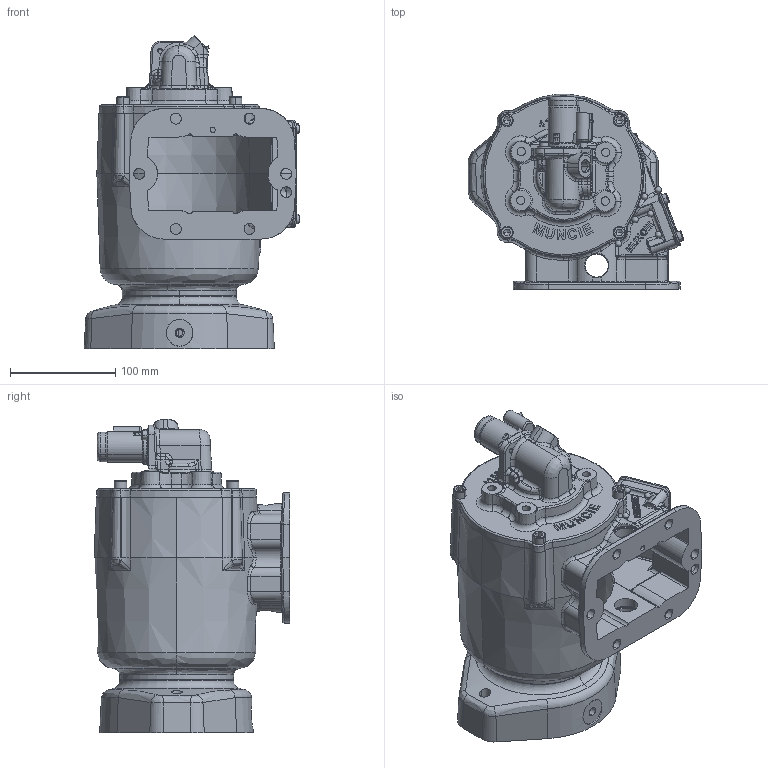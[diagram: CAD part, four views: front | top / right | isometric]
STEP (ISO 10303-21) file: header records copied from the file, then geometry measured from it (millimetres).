
FILE_DESCRIPTION (( 'STEP AP203' ), '1' );
FILE_NAME ('CS6B-XXXXX-S1LX.STEP', '2023-06-02T19:46:10', ( '' ), ( '' ), 'SwSTEP 2.0', 'SolidWorks 2021', '' );
FILE_SCHEMA (( 'CONFIG_CONTROL_DESIGN' ));
Length unit declared in the file: inch
Products named in the file (14): 15T41597; 35T40860-1; 11T36124-1; 16T41119; 19T34462-1; CS6B-XXXXX-S1LX; 14T40714; 19T40859; 12T36751; 19T35237; 36MCL100-1; 01T36713; 19T41118; 12T34003
Assembly tree (23 placements, depth 2):
  CS6B-XXXXX-S1LX
    01T36713
    11T36124-1
    12T34003
    12T36751
    15T41597
    16T41119
    19T34462-1  x4
    19T35237  x4
    19T40859  x2
    35T40860-1
    36MCL100-1
    19T41118  x4
    14T40714
Bounding box: 204.93 x 185.25 x 297.84 mm (x, y, z)
Volume: 1680872.6 mm3; surface area: 434698.4 mm2
Topology: 24 solids, 24 shells, 3902 faces, 10364 edges, 6608 vertices
Faces by surface type: plane 1558, bspline 1417, cylinder 604, cone 234, torus 85, sphere 4
Entity records: 208338 total; most frequent: CARTESIAN_POINT 125561, ORIENTED_EDGE 19484, DIRECTION 12287, EDGE_CURVE 9742, VERTEX_POINT 6294, LINE 4885, VECTOR 4885, EDGE_LOOP 3998
